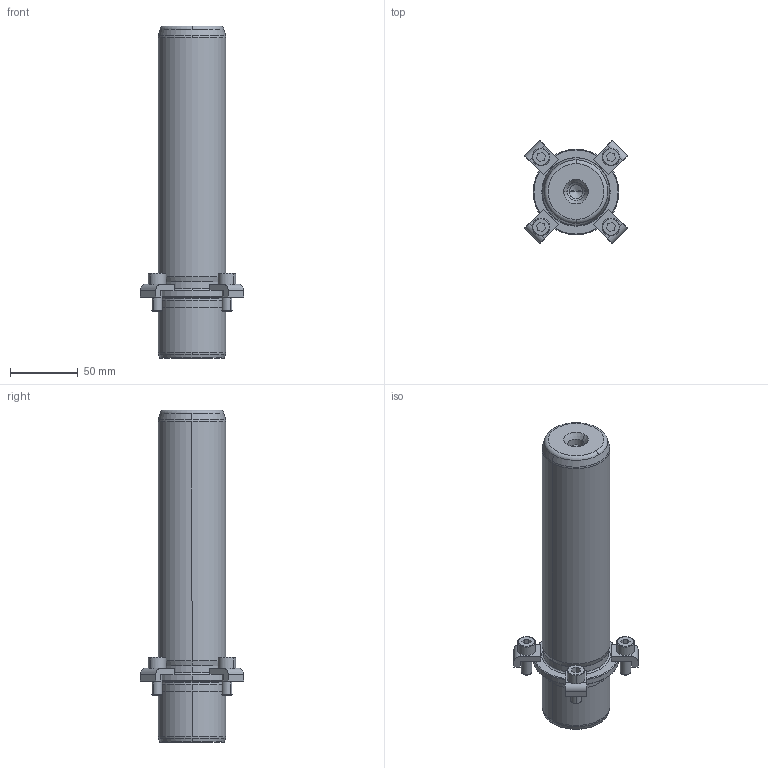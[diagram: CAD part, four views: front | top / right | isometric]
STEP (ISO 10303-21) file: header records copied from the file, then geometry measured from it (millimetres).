
FILE_DESCRIPTION((''),'2;1');
FILE_NAME('P21_050_200.stp','2008-12-23T13:43:47',(''),(''),'Mechanical Desktop 2009','Mechanical Desktop 2009',', , ');
FILE_SCHEMA(('CONFIG_CONTROL_DESIGN'));
Length unit declared in the file: millimetre
Products named in the file (2): Product; blmdl1
Assembly tree (1 placements, depth 2):
  Product
    blmdl1
Bounding box: 76.01 x 76.01 x 245 mm (x, y, z)
Volume: 489225.8 mm3; surface area: 55853.3 mm2
Topology: 9 solids, 9 shells, 195 faces, 477 edges, 309 vertices
Faces by surface type: plane 77, cylinder 52, cone 34, torus 16, bspline 16
Entity records: 6547 total; most frequent: CARTESIAN_POINT 1683, DIRECTION 1078, ORIENTED_EDGE 946, EDGE_CURVE 473, AXIS2_PLACEMENT_3D 424, VERTEX_POINT 309, CIRCLE 243, VECTOR 230
